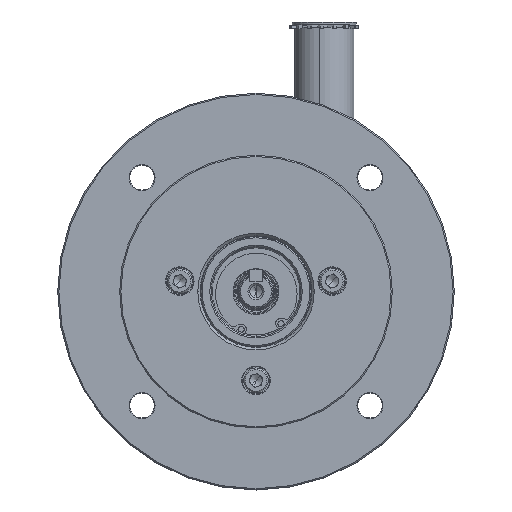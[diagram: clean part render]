
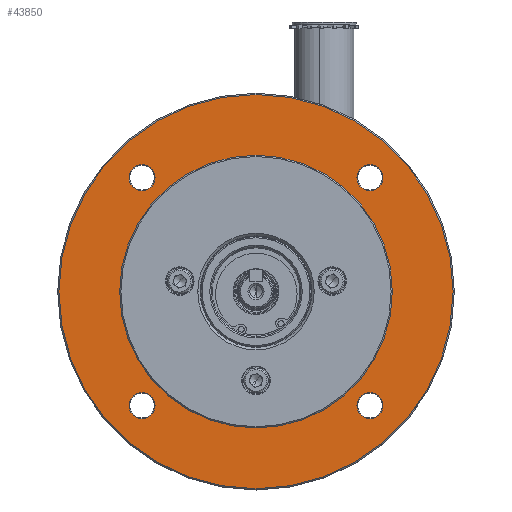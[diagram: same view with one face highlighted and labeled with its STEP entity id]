
A CAD part, top view. The second image highlights one B-rep face of the part: STEP entity #43850.
In plain terms, the highlighted planar face has unit normal (0, 0, 1).
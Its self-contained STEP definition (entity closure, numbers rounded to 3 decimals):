
#524 = EDGE_CURVE ( 'NONE', #70246, #26250, #72273, .T. ) ;
#806 = CARTESIAN_POINT ( 'NONE',  ( 79.5, 4., 39.305 ) ) ;
#2410 = CIRCLE ( 'NONE', #72800, 5.25 ) ;
#2531 = CIRCLE ( 'NONE', #39711, 79.5 ) ;
#5330 = EDGE_CURVE ( 'NONE', #26250, #70246, #2531, .T. ) ;
#6838 = VERTEX_POINT ( 'NONE', #12008 ) ;
#8365 = EDGE_LOOP ( 'NONE', ( #48119, #60074 ) ) ;
#8816 = VERTEX_POINT ( 'NONE', #71445 ) ;
#9321 = CIRCLE ( 'NONE', #74913, 5.25 ) ;
#9754 = AXIS2_PLACEMENT_3D ( 'NONE', #11660, #17676, #17950 ) ;
#10829 = AXIS2_PLACEMENT_3D ( 'NONE', #75594, #32825, #38502 ) ;
#11628 = VERTEX_POINT ( 'NONE', #68053 ) ;
#11660 = CARTESIAN_POINT ( 'NONE',  ( -45.962, -41.962, 39.305 ) ) ;
#12008 = CARTESIAN_POINT ( 'NONE',  ( 40.712, -41.962, 39.305 ) ) ;
#12809 = VERTEX_POINT ( 'NONE', #73175 ) ;
#12943 = DIRECTION ( 'NONE',  ( 0., 0., -1. ) ) ;
#14109 = DIRECTION ( 'NONE',  ( 1., 0., 0. ) ) ;
#14192 = VERTEX_POINT ( 'NONE', #54465 ) ;
#14380 = VERTEX_POINT ( 'NONE', #31728 ) ;
#14840 = VERTEX_POINT ( 'NONE', #42228 ) ;
#15122 = DIRECTION ( 'NONE',  ( 1., 0., 0. ) ) ;
#15590 = CIRCLE ( 'NONE', #79714, 5.25 ) ;
#15650 = EDGE_CURVE ( 'NONE', #14380, #14840, #66618, .T. ) ;
#16668 = DIRECTION ( 'NONE',  ( 1., 0., 0. ) ) ;
#16796 = CIRCLE ( 'NONE', #66750, 5.25 ) ;
#17336 = ORIENTED_EDGE ( 'NONE', *, *, #524, .F. ) ;
#17676 = DIRECTION ( 'NONE',  ( 0., 0., -1. ) ) ;
#17771 = CARTESIAN_POINT ( 'NONE',  ( -45.962, 49.962, 39.305 ) ) ;
#17865 = CIRCLE ( 'NONE', #32990, 55. ) ;
#17913 = DIRECTION ( 'NONE',  ( 1., 0., 0. ) ) ;
#17950 = DIRECTION ( 'NONE',  ( 1., 0., 0. ) ) ;
#18927 = DIRECTION ( 'NONE',  ( 0., 0., 1. ) ) ;
#19191 = EDGE_CURVE ( 'NONE', #6838, #14192, #16796, .T. ) ;
#22559 = ORIENTED_EDGE ( 'NONE', *, *, #77537, .T. ) ;
#23199 = AXIS2_PLACEMENT_3D ( 'NONE', #78599, #65878, #65618 ) ;
#24594 = CARTESIAN_POINT ( 'NONE',  ( 0., 59., 39.305 ) ) ;
#24872 = CARTESIAN_POINT ( 'NONE',  ( 0., 4., 39.305 ) ) ;
#25132 = DIRECTION ( 'NONE',  ( -1., 0., 0. ) ) ;
#25639 = EDGE_LOOP ( 'NONE', ( #50497, #22559 ) ) ;
#26250 = VERTEX_POINT ( 'NONE', #806 ) ;
#26433 = FACE_BOUND ( 'NONE', #43887, .T. ) ;
#26730 = CARTESIAN_POINT ( 'NONE',  ( -45.962, -41.962, 39.305 ) ) ;
#26740 = ORIENTED_EDGE ( 'NONE', *, *, #34325, .T. ) ;
#26994 = DIRECTION ( 'NONE',  ( 0., 0., -1. ) ) ;
#27003 = CARTESIAN_POINT ( 'NONE',  ( 45.962, -41.962, 39.305 ) ) ;
#27960 = EDGE_CURVE ( 'NONE', #12809, #8816, #17865, .T. ) ;
#29268 = DIRECTION ( 'NONE',  ( 0., 0., -1. ) ) ;
#30201 = DIRECTION ( 'NONE',  ( 1., 0., 0. ) ) ;
#30426 = ORIENTED_EDGE ( 'NONE', *, *, #68416, .T. ) ;
#31728 = CARTESIAN_POINT ( 'NONE',  ( -40.712, 49.962, 39.305 ) ) ;
#32817 = AXIS2_PLACEMENT_3D ( 'NONE', #49239, #36829, #17913 ) ;
#32825 = DIRECTION ( 'NONE',  ( 0., 0., -1. ) ) ;
#32990 = AXIS2_PLACEMENT_3D ( 'NONE', #24872, #12943, #25132 ) ;
#33760 = CARTESIAN_POINT ( 'NONE',  ( -45.962, 49.962, 39.305 ) ) ;
#34325 = EDGE_CURVE ( 'NONE', #14192, #6838, #9321, .T. ) ;
#34346 = DIRECTION ( 'NONE',  ( 1., 0., 0. ) ) ;
#35398 = AXIS2_PLACEMENT_3D ( 'NONE', #39055, #57759, #64485 ) ;
#36164 = FACE_BOUND ( 'NONE', #62863, .T. ) ;
#36829 = DIRECTION ( 'NONE',  ( 0., 0., -1. ) ) ;
#37023 = ORIENTED_EDGE ( 'NONE', *, *, #19191, .T. ) ;
#38431 = CIRCLE ( 'NONE', #35398, 55. ) ;
#38502 = DIRECTION ( 'NONE',  ( -1., 0., 0. ) ) ;
#39055 = CARTESIAN_POINT ( 'NONE',  ( 0., 4., 39.305 ) ) ;
#39711 = AXIS2_PLACEMENT_3D ( 'NONE', #78006, #29268, #52828 ) ;
#40809 = ORIENTED_EDGE ( 'NONE', *, *, #5330, .F. ) ;
#42007 = CARTESIAN_POINT ( 'NONE',  ( -51.212, -41.962, 39.305 ) ) ;
#42228 = CARTESIAN_POINT ( 'NONE',  ( -51.212, 49.962, 39.305 ) ) ;
#42893 = DIRECTION ( 'NONE',  ( 0., 0., -1. ) ) ;
#42985 = CIRCLE ( 'NONE', #32817, 5.25 ) ;
#43850 = ADVANCED_FACE ( 'NONE', ( #26433, #65203, #36164, #72977, #58461, #44855 ), #68727, .T. ) ;
#43887 = EDGE_LOOP ( 'NONE', ( #26740, #37023 ) ) ;
#44855 = FACE_OUTER_BOUND ( 'NONE', #76433, .T. ) ;
#46496 = DIRECTION ( 'NONE',  ( 0., 0., -1. ) ) ;
#47549 = VERTEX_POINT ( 'NONE', #42007 ) ;
#48119 = ORIENTED_EDGE ( 'NONE', *, *, #52065, .T. ) ;
#49239 = CARTESIAN_POINT ( 'NONE',  ( 45.962, 49.962, 39.305 ) ) ;
#50497 = ORIENTED_EDGE ( 'NONE', *, *, #15650, .T. ) ;
#50642 = DIRECTION ( 'NONE',  ( 0., 0., -1. ) ) ;
#50898 = CARTESIAN_POINT ( 'NONE',  ( 45.962, -41.962, 39.305 ) ) ;
#52065 = EDGE_CURVE ( 'NONE', #72063, #47549, #15590, .T. ) ;
#52183 = CARTESIAN_POINT ( 'NONE',  ( -40.712, -41.962, 39.305 ) ) ;
#52516 = EDGE_CURVE ( 'NONE', #47549, #72063, #73655, .T. ) ;
#52828 = DIRECTION ( 'NONE',  ( -1., 0., 0. ) ) ;
#54465 = CARTESIAN_POINT ( 'NONE',  ( 51.212, -41.962, 39.305 ) ) ;
#56404 = CARTESIAN_POINT ( 'NONE',  ( -79.5, 4., 39.305 ) ) ;
#57759 = DIRECTION ( 'NONE',  ( 0., 0., -1. ) ) ;
#58461 = FACE_BOUND ( 'NONE', #64070, .T. ) ;
#59139 = EDGE_CURVE ( 'NONE', #8816, #12809, #38431, .T. ) ;
#59920 = AXIS2_PLACEMENT_3D ( 'NONE', #33760, #60488, #16668 ) ;
#60074 = ORIENTED_EDGE ( 'NONE', *, *, #52516, .T. ) ;
#60488 = DIRECTION ( 'NONE',  ( 0., 0., -1. ) ) ;
#61085 = EDGE_CURVE ( 'NONE', #11628, #71537, #71518, .T. ) ;
#61666 = ORIENTED_EDGE ( 'NONE', *, *, #27960, .T. ) ;
#62194 = DIRECTION ( 'NONE',  ( 1., 0., 0. ) ) ;
#62863 = EDGE_LOOP ( 'NONE', ( #78815, #30426 ) ) ;
#64070 = EDGE_LOOP ( 'NONE', ( #76206, #61666 ) ) ;
#64169 = CARTESIAN_POINT ( 'NONE',  ( 40.712, 49.962, 39.305 ) ) ;
#64485 = DIRECTION ( 'NONE',  ( -1., 0., 0. ) ) ;
#64573 = AXIS2_PLACEMENT_3D ( 'NONE', #24594, #18927, #62194 ) ;
#65203 = FACE_BOUND ( 'NONE', #8365, .T. ) ;
#65618 = DIRECTION ( 'NONE',  ( 1., 0., 0. ) ) ;
#65878 = DIRECTION ( 'NONE',  ( 0., 0., -1. ) ) ;
#66618 = CIRCLE ( 'NONE', #59920, 5.25 ) ;
#66750 = AXIS2_PLACEMENT_3D ( 'NONE', #27003, #46496, #34346 ) ;
#68053 = CARTESIAN_POINT ( 'NONE',  ( 51.212, 49.962, 39.305 ) ) ;
#68416 = EDGE_CURVE ( 'NONE', #71537, #11628, #42985, .T. ) ;
#68727 = PLANE ( 'NONE',  #64573 ) ;
#70246 = VERTEX_POINT ( 'NONE', #56404 ) ;
#71445 = CARTESIAN_POINT ( 'NONE',  ( -55., 4., 39.305 ) ) ;
#71518 = CIRCLE ( 'NONE', #23199, 5.25 ) ;
#71537 = VERTEX_POINT ( 'NONE', #64169 ) ;
#72063 = VERTEX_POINT ( 'NONE', #52183 ) ;
#72273 = CIRCLE ( 'NONE', #10829, 79.5 ) ;
#72800 = AXIS2_PLACEMENT_3D ( 'NONE', #17771, #42893, #30201 ) ;
#72977 = FACE_BOUND ( 'NONE', #25639, .T. ) ;
#73175 = CARTESIAN_POINT ( 'NONE',  ( 55., 4., 39.305 ) ) ;
#73655 = CIRCLE ( 'NONE', #9754, 5.25 ) ;
#74913 = AXIS2_PLACEMENT_3D ( 'NONE', #50898, #50642, #14109 ) ;
#75594 = CARTESIAN_POINT ( 'NONE',  ( 0., 4., 39.305 ) ) ;
#76206 = ORIENTED_EDGE ( 'NONE', *, *, #59139, .T. ) ;
#76433 = EDGE_LOOP ( 'NONE', ( #17336, #40809 ) ) ;
#77537 = EDGE_CURVE ( 'NONE', #14840, #14380, #2410, .T. ) ;
#78006 = CARTESIAN_POINT ( 'NONE',  ( 0., 4., 39.305 ) ) ;
#78599 = CARTESIAN_POINT ( 'NONE',  ( 45.962, 49.962, 39.305 ) ) ;
#78815 = ORIENTED_EDGE ( 'NONE', *, *, #61085, .T. ) ;
#79714 = AXIS2_PLACEMENT_3D ( 'NONE', #26730, #26994, #15122 ) ;
